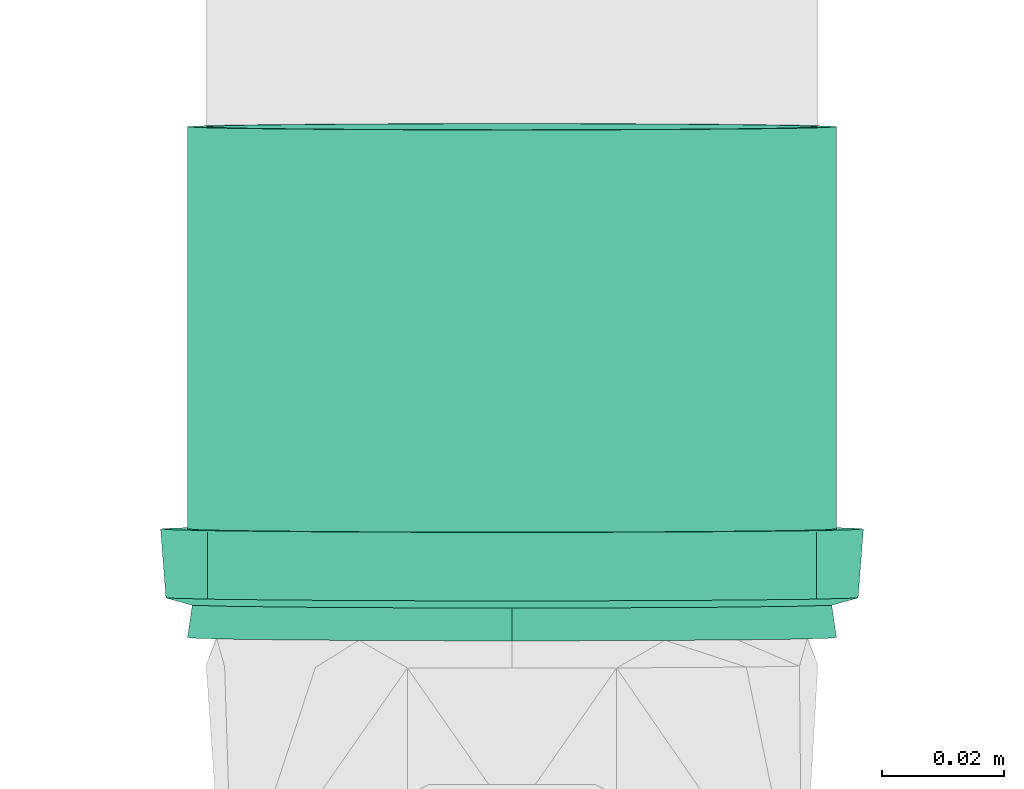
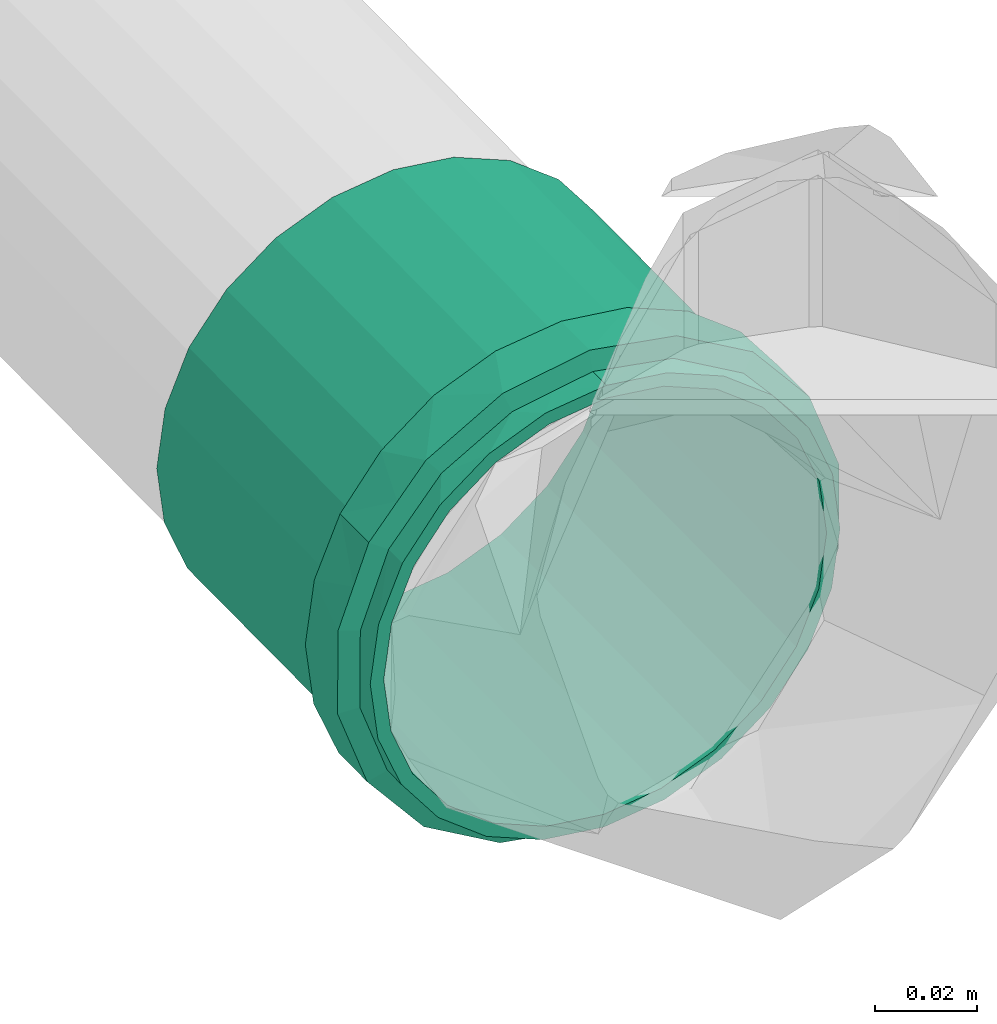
# One storey, part 212 of 589: 1 flow fitting.
"""IFC2X3 building model written with IfcOpenShell, lengths in millimetres."""

from ifc_helpers import new_model, entity, si_unit, converted_unit, derived_unit, direction, frame, origin, place, context, subcontext, project, spatial, faceted_brep, source, transform, mapped, material, type_object, type_shapes, element, save


model = new_model("IFC2X3")

# Units and contexts
model_context = context("Model", 3, precision=0.01, world=origin(), true_north=direction((6.123031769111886e-17, 1.0)))
body_context = subcontext(model_context, "Body", "Model", "MODEL_VIEW")
ifc_project = project(units=[si_unit("LENGTHUNIT", "METRE", prefix="MILLI"), si_unit("AREAUNIT", "SQUARE_METRE"), si_unit("VOLUMEUNIT", "CUBIC_METRE"), converted_unit("PLANEANGLEUNIT", "DEGREE", entity("IfcRatioMeasure", 0.017453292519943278), si_unit("PLANEANGLEUNIT", "RADIAN"), dimensions=[0, 0, 0, 0, 0, 0, 0]), si_unit("MASSUNIT", "GRAM", prefix="KILO"), derived_unit("MASSDENSITYUNIT", [(si_unit("MASSUNIT", "GRAM", prefix="KILO"), 1), (si_unit("LENGTHUNIT", "METRE"), -3)]), derived_unit("IONCONCENTRATIONUNIT", [(si_unit("MASSUNIT", "GRAM", prefix="KILO"), 1), (si_unit("LENGTHUNIT", "METRE"), -3)]), derived_unit("MOMENTOFINERTIAUNIT", [(si_unit("LENGTHUNIT", "METRE"), 4)]), si_unit("TIMEUNIT", "SECOND"), si_unit("FREQUENCYUNIT", "HERTZ"), si_unit("THERMODYNAMICTEMPERATUREUNIT", "DEGREE_CELSIUS"), derived_unit("THERMALTRANSMITTANCEUNIT", [(si_unit("MASSUNIT", "GRAM", prefix="KILO"), 1), (si_unit("THERMODYNAMICTEMPERATUREUNIT", "KELVIN"), -1), (si_unit("TIMEUNIT", "SECOND"), -3)]), derived_unit("THERMALCONDUCTANCEUNIT", [(si_unit("MASSUNIT", "GRAM", prefix="KILO"), 1), (si_unit("THERMODYNAMICTEMPERATUREUNIT", "KELVIN"), -1), (si_unit("TIMEUNIT", "SECOND"), -3), (si_unit("LENGTHUNIT", "METRE"), 1)]), derived_unit("VOLUMETRICFLOWRATEUNIT", [(si_unit("LENGTHUNIT", "METRE"), 3), (si_unit("TIMEUNIT", "SECOND"), -1)]), derived_unit("MASSFLOWRATEUNIT", [(si_unit("MASSUNIT", "GRAM", prefix="KILO"), 1), (si_unit("TIMEUNIT", "SECOND"), -1)]), derived_unit("ROTATIONALFREQUENCYUNIT", [(si_unit("TIMEUNIT", "SECOND"), -1)]), si_unit("ELECTRICCURRENTUNIT", "AMPERE"), si_unit("ELECTRICVOLTAGEUNIT", "VOLT"), si_unit("POWERUNIT", "WATT"), si_unit("FORCEUNIT", "NEWTON", prefix="KILO"), si_unit("ILLUMINANCEUNIT", "LUX"), si_unit("LUMINOUSFLUXUNIT", "LUMEN"), si_unit("LUMINOUSINTENSITYUNIT", "CANDELA"), derived_unit("USERDEFINED", [(si_unit("MASSUNIT", "GRAM", prefix="KILO"), -1), (si_unit("LENGTHUNIT", "METRE"), -2), (si_unit("TIMEUNIT", "SECOND"), 3), (si_unit("LUMINOUSFLUXUNIT", "LUMEN"), 1)]), derived_unit("USERDEFINED", [(si_unit("MASSUNIT", "GRAM", prefix="KILO"), 1), (si_unit("TIMEUNIT", "SECOND"), -3), (si_unit("LENGTHUNIT", "METRE"), 3), (si_unit("ELECTRICCURRENTUNIT", "AMPERE"), -2)]), derived_unit("SOUNDPOWERUNIT", [(si_unit("MASSUNIT", "GRAM", prefix="KILO"), 1), (si_unit("TIMEUNIT", "SECOND"), -3), (si_unit("LENGTHUNIT", "METRE"), 2)]), derived_unit("SOUNDPRESSUREUNIT", [(si_unit("MASSUNIT", "GRAM", prefix="KILO"), 1), (si_unit("LENGTHUNIT", "METRE"), -1), (si_unit("TIMEUNIT", "SECOND"), -2)]), derived_unit("LINEARVELOCITYUNIT", [(si_unit("LENGTHUNIT", "METRE"), 1), (si_unit("TIMEUNIT", "SECOND"), -1)]), si_unit("PRESSUREUNIT", "PASCAL"), derived_unit("USERDEFINED", [(si_unit("MASSUNIT", "GRAM", prefix="KILO"), 1), (si_unit("LENGTHUNIT", "METRE"), -2), (si_unit("TIMEUNIT", "SECOND"), -2)]), derived_unit("LINEARFORCEUNIT", [(si_unit("MASSUNIT", "GRAM", prefix="KILO"), 1), (si_unit("TIMEUNIT", "SECOND"), -2)]), derived_unit("PLANARFORCEUNIT", [(si_unit("MASSUNIT", "GRAM", prefix="KILO"), 1), (si_unit("LENGTHUNIT", "METRE"), -1), (si_unit("TIMEUNIT", "SECOND"), -2)]), derived_unit("SPECIFICHEATCAPACITYUNIT", [(si_unit("THERMODYNAMICTEMPERATUREUNIT", "KELVIN"), -1), (si_unit("LENGTHUNIT", "METRE"), 2), (si_unit("TIMEUNIT", "SECOND"), -2)]), derived_unit("HEATINGVALUEUNIT", [(si_unit("LENGTHUNIT", "METRE"), 2), (si_unit("TIMEUNIT", "SECOND"), -2)]), derived_unit("VAPORPERMEABILITYUNIT", [(si_unit("LENGTHUNIT", "METRE"), -1), (si_unit("TIMEUNIT", "SECOND"), 1)]), derived_unit("DYNAMICVISCOSITYUNIT", [(si_unit("MASSUNIT", "GRAM", prefix="KILO"), 1), (si_unit("TIMEUNIT", "SECOND"), -1), (si_unit("LENGTHUNIT", "METRE"), -1)]), derived_unit("THERMALEXPANSIONCOEFFICIENTUNIT", [(si_unit("THERMODYNAMICTEMPERATUREUNIT", "KELVIN"), -1)]), derived_unit("MODULUSOFELASTICITYUNIT", [(si_unit("MASSUNIT", "GRAM", prefix="KILO"), 1), (si_unit("LENGTHUNIT", "METRE"), -1), (si_unit("TIMEUNIT", "SECOND"), -2)]), derived_unit("ISOTHERMALMOISTURECAPACITYUNIT", [(si_unit("LENGTHUNIT", "METRE"), 3), (si_unit("MASSUNIT", "GRAM", prefix="KILO"), -1)]), derived_unit("MOISTUREDIFFUSIVITYUNIT", [(si_unit("TIMEUNIT", "SECOND"), -1), (si_unit("LENGTHUNIT", "METRE"), 2)])], contexts=[model_context])

# Site, building, storey
site_placement = place(None, origin())
site = spatial("IfcSite", under=ifc_project, at=site_placement, Name="Default", CompositionType="ELEMENT")
building_placement = place(site_placement, origin())
building = spatial("IfcBuilding", under=site, at=building_placement, CompositionType="ELEMENT")
storey_placement = place(building_placement, frame((0.0, 0.0, 100.0)))
storey = spatial("IfcBuildingStorey", under=building, at=storey_placement, Name="TÉRREO", CompositionType="ELEMENT", Elevation=100.0)

# Flow fitting
ifc_material = material(Name="PVC Série Normal")
pipe_fitting_type = type_object("IfcPipeFittingType", Name="PVC Esgoto_Luva Simples para Conexão_Rodrigo MEP:Standard", PredefinedType="NOTDEFINED", material=ifc_material)
shared_shape = source(origin(), body_context, "Body", "Brep", [
    faceted_brep([(17.770000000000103, 28.72500000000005, -49.753159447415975), (17.770000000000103, 40.62328457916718, -40.62328457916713), (17.770000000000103, 26.524999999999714, -45.94264767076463), (17.770000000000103, 13.730350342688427, -51.242365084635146), (17.770000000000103, 14.86915414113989, -55.49243872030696), (17.770000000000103, 37.5120147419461, -37.51201474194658), (17.770000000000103, 49.75315944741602, -28.724999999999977), (17.770000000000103, 45.94264767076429, -26.52500000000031), (17.770000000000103, 51.24236508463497, -13.730350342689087), (17.770000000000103, 55.49243872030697, -14.869154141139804), (17.770000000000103, 53.05, 0.0), (17.770000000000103, 57.45, 0.0), (17.770000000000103, 51.242365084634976, 13.730350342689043), (17.770000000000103, 55.49243872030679, 14.869154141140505), (17.770000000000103, 45.942647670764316, 26.52500000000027), (17.770000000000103, 49.753159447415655, 28.725000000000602), (17.770000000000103, 37.51201474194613, 37.51201474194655), (17.770000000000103, 40.62328457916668, 40.62328457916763), (17.770000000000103, 26.524999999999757, 45.9426476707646), (17.770000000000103, 28.72499999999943, 49.75315944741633), (17.770000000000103, 13.730350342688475, 51.24236508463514), (17.770000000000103, 14.8691541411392, 55.49243872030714), (17.770000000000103, 0.0, 53.05), (17.770000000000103, 0.0, 57.45), (17.770000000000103, -13.730350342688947, 51.24236508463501), (17.770000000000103, -14.869154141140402, 55.49243872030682), (17.770000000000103, -26.52500000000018, 45.94264767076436), (17.770000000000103, -28.725000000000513, 49.753159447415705), (17.770000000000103, -37.51201474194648, 37.5120147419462), (17.770000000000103, -40.62328457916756, 40.62328457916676), (17.770000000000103, -45.94264767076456, 26.524999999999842), (17.770000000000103, -49.7531594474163, 28.724999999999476), (17.770000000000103, -55.49243872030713, 14.869154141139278), (17.770000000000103, -51.24236508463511, 13.730350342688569), (17.770000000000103, -57.45, 0.0), (17.770000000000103, -53.05, 0.0), (17.770000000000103, -55.49243872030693, -14.86915414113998), (17.770000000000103, -51.24236508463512, -13.73035034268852), (17.770000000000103, -49.75315944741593, -28.72500000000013), (17.770000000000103, -45.942647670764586, -26.5249999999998), (17.770000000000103, -40.62328457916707, -40.62328457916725), (17.770000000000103, -37.512014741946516, -37.51201474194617), (17.770000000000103, -28.724999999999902, -49.75315944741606), (17.770000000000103, -26.525000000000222, -45.94264767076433), (17.770000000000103, -14.869154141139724, -55.492438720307), (17.770000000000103, -13.730350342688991, -51.242365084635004), (17.770000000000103, 0.0, -57.45), (17.770000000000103, 0.0, -53.05), (6.570000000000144, -19.34638876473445, 53.16657713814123), (6.57000000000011, -44.00761900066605, 36.93009572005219), (6.5700000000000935, -48.99626263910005, 28.290173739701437), (6.5700000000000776, -53.98490627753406, 19.65025175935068), (6.570000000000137, -28.721697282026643, 49.75506612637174), (6.570000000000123, -36.36465814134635, 43.34258092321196), (6.57000000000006, -55.71745313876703, 9.825125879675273), (6.570000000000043, -57.45, 0.0), (6.570000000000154, -9.971080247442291, 56.57808814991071), (6.570000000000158, 9.98234714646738, 56.576101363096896), (6.570000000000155, 0.005633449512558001, 56.577094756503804), (6.570000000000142, 36.37328876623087, 43.33533831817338), (6.570000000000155, 19.356976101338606, 53.16272339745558), (6.570000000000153, 28.73160505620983, 49.749345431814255), (6.5700000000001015, 53.988818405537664, 19.639500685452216), (6.570000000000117, 49.00189544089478, 28.280415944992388), (6.570000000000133, 44.01497247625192, 36.921331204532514), (6.570000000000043, 57.45, 0.0), (6.569999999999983, 44.01497247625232, -36.92133120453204), (6.569999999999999, 49.0018954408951, -28.280415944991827), (6.570000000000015, 53.98881840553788, -19.63950068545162), (6.569999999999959, 28.731605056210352, -49.74934543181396), (6.569999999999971, 36.37328876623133, -43.335338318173), (6.569999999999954, 19.35697610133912, -53.16272339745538), (6.569999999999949, 9.982347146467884, -56.57610136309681), (6.569999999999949, -9.97108024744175, -56.578088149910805), (6.569999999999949, 0.005633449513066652, -56.577094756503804), (6.569999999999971, -36.364658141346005, -43.34258092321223), (6.56999999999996, -28.72169728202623, -49.755066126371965), (6.569999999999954, -19.346388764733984, -53.16657713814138), (6.57000000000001, -53.984906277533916, -19.650251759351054), (6.569999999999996, -48.99626263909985, -28.290173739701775), (6.569999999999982, -44.007619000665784, -36.93009572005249), (6.570000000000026, -55.717453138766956, -9.825125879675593), (83.52000000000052, 26.525000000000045, -45.942647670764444), (83.52000000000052, 37.512014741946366, -37.51201474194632), (83.52000000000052, 25.0, -43.301270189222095), (83.52000000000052, 12.940952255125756, -48.2962913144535), (83.52000000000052, 13.73035034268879, -51.242365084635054), (83.52000000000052, 35.35533905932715, -35.355339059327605), (83.52000000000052, 45.94264767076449, -26.524999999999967), (83.52000000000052, 43.30127018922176, -25.0), (83.52000000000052, 48.29629131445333, -12.940952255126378), (83.52000000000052, 51.24236508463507, -13.730350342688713), (83.52000000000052, 50.0, 0.0), (83.52000000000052, 53.05, 0.0), (83.52000000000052, 48.296291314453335, 12.940952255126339), (83.52000000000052, 51.2423650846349, 13.73035034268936), (83.52000000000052, 43.30127018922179, 25.0), (83.52000000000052, 45.942647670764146, 26.525000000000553), (83.52000000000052, 35.35533905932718, 35.35533905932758), (83.52000000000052, 37.512014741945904, 37.512014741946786), (83.52000000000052, 25.0, 43.301270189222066), (83.52000000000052, 26.52499999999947, 45.94264767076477), (83.52000000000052, 12.9409522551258, 48.29629131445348), (83.52000000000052, 13.730350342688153, 51.242365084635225), (83.52000000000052, 0.0, 50.0), (83.52000000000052, 0.0, 53.05), (83.52000000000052, -12.94095225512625, 48.296291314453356), (83.52000000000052, -13.730350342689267, 51.24236508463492), (83.52000000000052, -25.0, 43.30127018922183), (83.52000000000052, -26.525000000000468, 45.942647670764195), (83.52000000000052, -35.355339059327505, 35.35533905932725), (83.52000000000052, -37.512014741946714, 37.51201474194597), (83.52000000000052, -43.30127018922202, 25.0), (83.52000000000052, -45.942647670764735, 26.524999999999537), (83.52000000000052, -51.24236508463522, 13.730350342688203), (83.52000000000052, -48.29629131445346, 12.94095225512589), (83.52000000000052, -53.05, 0.0), (83.52000000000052, -50.0, 0.0), (83.52000000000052, -51.242365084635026, -13.730350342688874), (83.52000000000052, -48.29629131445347, -12.940952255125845), (83.52000000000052, -45.9426476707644, -26.525000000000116), (83.52000000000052, -43.301270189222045, -25.0), (83.52000000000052, -37.51201474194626, -37.51201474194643), (83.52000000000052, -35.35533905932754, -35.355339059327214), (83.52000000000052, -26.524999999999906, -45.94264767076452), (83.52000000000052, -25.0, -43.30127018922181), (83.52000000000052, -13.730350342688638, -51.2423650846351), (83.52000000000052, -12.94095225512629, -48.29629131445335), (83.52000000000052, 0.0, -53.05), (83.52000000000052, 0.0, -50.0), (0.0, 25.0, -43.301270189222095), (0.0, 37.512014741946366, -37.51201474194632), (0.0, 26.525000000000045, -45.942647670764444), (0.0, 12.940952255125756, -48.2962913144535), (0.0, 35.35533905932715, -35.355339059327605), (0.0, 45.94264767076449, -26.524999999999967), (0.0, 43.30127018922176, -25.0), (0.0, 48.29629131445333, -12.940952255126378), (0.0, 51.24236508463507, -13.730350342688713), (0.0, 50.0, 0.0), (0.0, 53.05, 0.0), (0.0, 48.296291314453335, 12.940952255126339), (0.0, 51.2423650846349, 13.73035034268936), (0.0, 43.30127018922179, 25.0), (0.0, 45.942647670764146, 26.525000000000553), (0.0, 35.35533905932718, 35.35533905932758), (0.0, 37.512014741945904, 37.512014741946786), (0.0, 25.0, 43.301270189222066), (0.0, 26.52499999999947, 45.94264767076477), (0.0, 12.9409522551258, 48.29629131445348), (0.0, 13.730350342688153, 51.242365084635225), (0.0, 0.0, 50.0), (0.0, 0.0, 53.05), (0.0, -12.94095225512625, 48.296291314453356), (0.0, -13.730350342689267, 51.24236508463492), (0.0, -25.0, 43.30127018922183), (0.0, -26.525000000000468, 45.942647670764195), (0.0, -35.355339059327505, 35.35533905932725), (0.0, -37.512014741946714, 37.51201474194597), (0.0, -43.30127018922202, 25.0), (0.0, -45.942647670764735, 26.524999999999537), (0.0, -51.24236508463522, 13.730350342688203), (0.0, -48.29629131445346, 12.94095225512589), (0.0, -53.05, 0.0), (0.0, -50.0, 0.0), (0.0, -51.242365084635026, -13.730350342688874), (0.0, -48.29629131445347, -12.940952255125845), (0.0, -45.9426476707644, -26.525000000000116), (0.0, -43.301270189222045, -25.0), (0.0, -37.51201474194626, -37.51201474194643), (0.0, -35.35533905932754, -35.355339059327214), (0.0, -26.524999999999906, -45.94264767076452), (0.0, -25.0, -43.30127018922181), (0.0, -13.730350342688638, -51.2423650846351), (0.0, -12.94095225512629, -48.29629131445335), (0.0, 0.0, -53.05), (0.0, 0.0, -50.0), (0.0, 13.73035034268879, -51.242365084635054), (5.370000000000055, -53.05, 0.0), (5.370000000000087, -49.85079898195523, 18.143878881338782), (5.370000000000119, -40.63905406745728, 34.09941032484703), (5.370000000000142, -26.525801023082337, 45.942185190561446), (5.3700000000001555, -9.213250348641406, 52.24383712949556), (5.370000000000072, 51.44992493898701, 9.073243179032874), (5.370000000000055, 53.05, 0.0), (5.370000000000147, 26.523397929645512, 45.943572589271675), (5.370000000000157, 9.210517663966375, 52.244318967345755), (5.3700000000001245, 40.63727040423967, 34.10153594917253), (5.370000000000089, 49.84984987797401, 18.146486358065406), (5.370000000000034, 51.4499249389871, -9.073243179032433), (5.370000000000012, 49.84984987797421, -18.146486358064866), (5.369999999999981, 40.63727040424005, -34.101535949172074), (5.36999999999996, 26.523397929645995, -45.9435725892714), (5.369999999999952, 9.21051766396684, -52.24431896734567), (5.369999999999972, -26.52580102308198, -45.94218519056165), (5.369999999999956, -9.213250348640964, -52.24383712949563), (5.369999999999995, -40.63905406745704, -34.099410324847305), (5.370000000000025, -49.8507989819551, -18.143878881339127), (50.0, -50.0, 0.0), (50.0, 50.0, 0.0)], [[[0, 1, 2]], [[0, 2, 3]], [[3, 4, 0]], [[2, 1, 5]], [[6, 5, 1]], [[5, 6, 7]], [[7, 6, 8]], [[9, 8, 6]], [[9, 10, 8]], [[10, 9, 11]], [[12, 10, 11]], [[11, 13, 12]], [[12, 13, 14]], [[15, 14, 13]], [[14, 15, 16]], [[16, 15, 17]], [[18, 16, 17]], [[17, 19, 18]], [[18, 19, 20]], [[21, 20, 19]], [[20, 21, 22]], [[22, 21, 23]], [[22, 23, 24]], [[24, 23, 25]], [[24, 25, 26]], [[27, 26, 25]], [[27, 28, 26]], [[28, 27, 29]], [[29, 30, 28]], [[31, 30, 29]], [[30, 31, 32]], [[32, 33, 30]], [[34, 33, 32]], [[34, 35, 33]], [[36, 35, 34]], [[36, 37, 35]], [[37, 36, 38]], [[38, 39, 37]], [[39, 38, 40]], [[39, 40, 41]], [[40, 42, 41]], [[41, 42, 43]], [[43, 42, 44]], [[44, 45, 43]], [[46, 45, 44]], [[4, 47, 46]], [[46, 47, 45]], [[4, 3, 47]], [[48, 27, 25]], [[31, 29, 49]], [[31, 49, 50, 51]], [[52, 53, 27]], [[32, 51, 54]], [[54, 55, 34]], [[54, 34, 32]], [[25, 56, 48]], [[49, 29, 53]], [[23, 57, 58, 56]], [[59, 19, 17]], [[27, 53, 29]], [[48, 52, 27]], [[31, 51, 32]], [[57, 23, 21]], [[60, 19, 61]], [[15, 62, 63, 64]], [[19, 60, 21]], [[15, 13, 62]], [[17, 64, 59]], [[57, 21, 60]], [[23, 56, 25]], [[15, 64, 17]], [[13, 65, 62]], [[13, 11, 65]], [[59, 61, 19]], [[65, 11, 9]], [[6, 1, 66]], [[6, 66, 67, 68]], [[69, 70, 0]], [[68, 65, 9]], [[71, 69, 0]], [[71, 0, 4]], [[4, 72, 71]], [[66, 1, 70]], [[46, 73, 74, 72]], [[75, 76, 42]], [[0, 70, 1]], [[75, 42, 40]], [[6, 68, 9]], [[73, 46, 44]], [[77, 42, 76]], [[38, 78, 79, 80]], [[42, 77, 44]], [[38, 36, 78]], [[40, 80, 75]], [[73, 44, 77]], [[46, 72, 4]], [[38, 80, 40]], [[81, 78, 36]], [[55, 81, 34]], [[34, 81, 36]], [[82, 83, 84]], [[82, 84, 85]], [[85, 86, 82]], [[84, 83, 87]], [[88, 87, 83]], [[87, 88, 89]], [[89, 88, 90]], [[91, 90, 88]], [[91, 92, 90]], [[92, 91, 93]], [[94, 92, 93]], [[93, 95, 94]], [[94, 95, 96]], [[97, 96, 95]], [[96, 97, 98]], [[98, 97, 99]], [[100, 98, 99]], [[99, 101, 100]], [[100, 101, 102]], [[103, 102, 101]], [[102, 103, 104]], [[104, 103, 105]], [[104, 105, 106]], [[106, 105, 107]], [[106, 107, 108]], [[109, 108, 107]], [[110, 108, 109]], [[110, 109, 111]], [[111, 112, 110]], [[113, 112, 111]], [[112, 113, 114]], [[114, 115, 112]], [[116, 115, 114]], [[116, 117, 115]], [[118, 117, 116]], [[118, 119, 117]], [[119, 118, 120]], [[120, 121, 119]], [[121, 120, 122]], [[121, 122, 123]], [[122, 124, 123]], [[125, 123, 124]], [[125, 124, 126]], [[126, 127, 125]], [[128, 127, 126]], [[86, 129, 128]], [[128, 129, 127]], [[86, 85, 129]], [[130, 131, 132]], [[133, 130, 132]], [[134, 131, 130]], [[131, 134, 135]], [[136, 135, 134]], [[137, 135, 136]], [[135, 137, 138]], [[137, 139, 138]], [[140, 138, 139]], [[140, 139, 141]], [[141, 142, 140]], [[143, 142, 141]], [[142, 143, 144]], [[145, 144, 143]], [[146, 144, 145]], [[146, 145, 147]], [[147, 148, 146]], [[149, 148, 147]], [[148, 149, 150]], [[151, 150, 149]], [[152, 150, 151]], [[153, 152, 151]], [[154, 152, 153]], [[155, 154, 153]], [[154, 155, 156]], [[156, 155, 157]], [[158, 156, 157]], [[157, 159, 158]], [[158, 159, 160]], [[161, 160, 159]], [[159, 162, 161]], [[161, 162, 163]], [[162, 164, 163]], [[163, 164, 165]], [[164, 166, 165]], [[167, 165, 166]], [[166, 168, 167]], [[169, 167, 168]], [[170, 169, 168]], [[170, 171, 169]], [[171, 170, 172]], [[173, 171, 172]], [[172, 174, 173]], [[173, 174, 175]], [[174, 176, 175]], [[176, 133, 177]], [[175, 176, 177]], [[132, 177, 133]], [[161, 178, 179]], [[158, 180, 181]], [[179, 180, 160]], [[181, 182, 154]], [[179, 160, 161]], [[161, 163, 178]], [[35, 116, 114, 33]], [[183, 184, 140]], [[181, 156, 158]], [[158, 160, 180]], [[181, 154, 156]], [[182, 152, 154]], [[183, 140, 142]], [[185, 150, 186]], [[187, 146, 185]], [[142, 188, 183]], [[187, 188, 144]], [[185, 148, 150]], [[150, 152, 186]], [[187, 144, 146]], [[146, 148, 185]], [[188, 142, 144]], [[186, 152, 182]], [[189, 190, 138]], [[131, 191, 192]], [[190, 191, 135]], [[192, 193, 177]], [[190, 135, 138]], [[184, 189, 140]], [[192, 132, 131]], [[131, 135, 191]], [[192, 177, 132]], [[193, 175, 177]], [[140, 189, 138]], [[194, 173, 195]], [[196, 169, 194]], [[165, 197, 178]], [[196, 197, 167]], [[165, 178, 163]], [[35, 37, 118, 116]], [[194, 171, 173]], [[173, 175, 195]], [[196, 167, 169]], [[169, 171, 194]], [[197, 165, 167]], [[195, 175, 193]], [[115, 117, 198, 164, 162]], [[155, 108, 110, 157]], [[110, 112, 159, 157]], [[112, 115, 162, 159]], [[106, 108, 155, 153]], [[153, 151, 104, 106]], [[102, 104, 151, 149]], [[102, 149, 147, 100]], [[141, 94, 96, 143]], [[96, 98, 145, 143]], [[98, 100, 147, 145]], [[92, 94, 141, 139, 199]], [[199, 139, 137, 90, 92]], [[87, 89, 136, 134]], [[134, 130, 84, 87]], [[89, 90, 137, 136]], [[85, 84, 130, 133]], [[133, 176, 129, 85]], [[127, 129, 176, 174]], [[127, 174, 172, 125]], [[166, 119, 121, 168]], [[121, 123, 170, 168]], [[123, 125, 172, 170]], [[117, 119, 166, 164, 198]], [[81, 178, 197]], [[190, 68, 67]], [[194, 75, 196]], [[193, 72, 74]], [[195, 77, 194]], [[79, 197, 196]], [[81, 55, 178]], [[192, 69, 71]], [[79, 78, 197]], [[194, 77, 76]], [[191, 66, 70]], [[80, 196, 75]], [[68, 190, 189]], [[74, 195, 193]], [[192, 71, 193]], [[190, 67, 191]], [[70, 192, 191]], [[65, 189, 184]], [[195, 73, 77]], [[193, 71, 72]], [[197, 78, 81]], [[191, 67, 66]], [[189, 65, 68]], [[196, 80, 79]], [[70, 69, 192]], [[194, 76, 75]], [[73, 195, 74]], [[65, 183, 62]], [[48, 56, 182]], [[58, 182, 56]], [[54, 51, 179]], [[59, 185, 61]], [[60, 186, 57]], [[53, 52, 181]], [[63, 187, 64]], [[58, 57, 186]], [[187, 63, 188]], [[186, 60, 185]], [[50, 49, 180]], [[185, 59, 187]], [[59, 64, 187]], [[182, 58, 186]], [[50, 179, 51]], [[54, 178, 55]], [[53, 180, 49]], [[63, 62, 188]], [[181, 48, 182]], [[183, 65, 184]], [[179, 50, 180]], [[178, 54, 179]], [[183, 188, 62]], [[180, 53, 181]], [[60, 61, 185]], [[48, 181, 52]], [[30, 33, 114, 113]], [[26, 28, 111, 109]], [[113, 111, 28, 30]], [[107, 24, 26, 109]], [[107, 105, 22, 24]], [[18, 20, 103, 101]], [[99, 16, 18, 101]], [[12, 14, 97, 95]], [[99, 97, 14, 16]], [[10, 12, 95, 93]], [[103, 20, 22, 105]], [[91, 8, 10, 93]], [[88, 7, 8, 91]], [[82, 86, 3, 2]], [[83, 5, 7, 88]], [[2, 5, 83, 82]], [[86, 128, 47, 3]], [[43, 45, 126, 124]], [[122, 41, 43, 124]], [[37, 39, 120, 118]], [[122, 120, 39, 41]], [[126, 45, 47, 128]]]),
])
type_shapes(pipe_fitting_type, [shared_shape])
flow_fitting_placement = place(storey_placement, frame((10615.99777647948, -52.478816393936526, -240.86879489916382), z_axis=(1.0, 0.0, 0.0), x_axis=(0.0, 0.9999500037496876, 0.009999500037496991)))
element("IfcFlowFitting", 1, at=flow_fitting_placement, inside=storey, type_object=pipe_fitting_type, material=ifc_material, Name="PVC Esgoto_Luva Simples para Conexão_Rodrigo MEP:Standard", ObjectType="PVC Esgoto_Luva Simples para Conexão_Rodrigo MEP:Standard", context=body_context, shape_type="MappedRepresentation", body=[
    mapped(shared_shape, transform((0.0, 0.0, 0.0), scale=1.0)),
])

save(model, "model.ifc")
